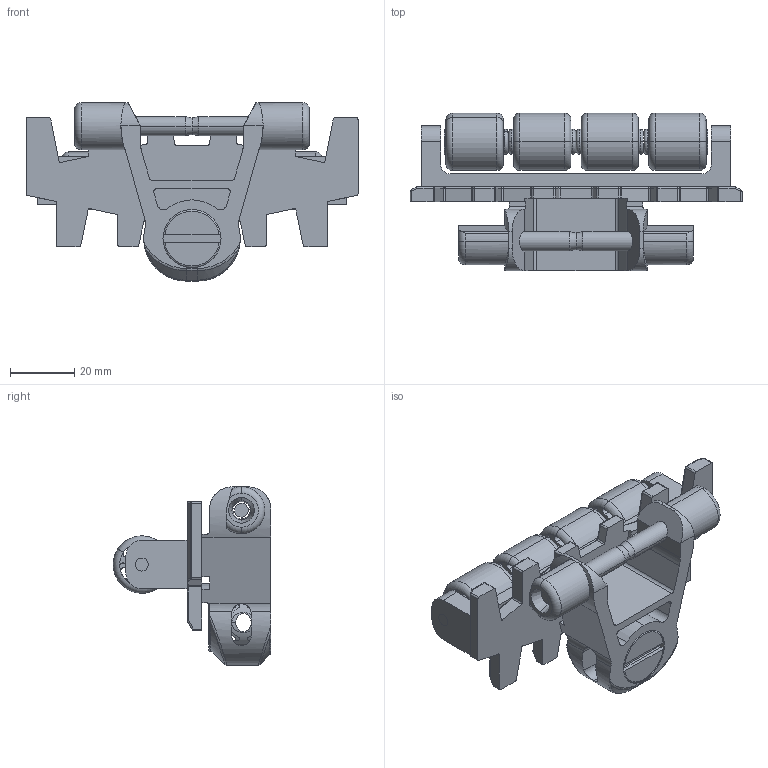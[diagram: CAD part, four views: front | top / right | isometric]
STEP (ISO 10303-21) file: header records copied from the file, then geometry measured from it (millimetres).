
FILE_DESCRIPTION (( 'STEP AP214' ), '1' );
FILE_NAME ('FCRC 5A.step', '2017-04-04T13:29:20', ( '' ), ( '' ), 'SwSTEP 2.0', 'SolidWorks 2015', '' );
FILE_SCHEMA (( 'AUTOMOTIVE_DESIGN' ));
Length unit declared in the file: millimetre
Products named in the file (1): FCRC 5A
Bounding box: 103 x 48.9 x 55.3 mm (x, y, z)
Surface area: 34459.2 mm2 (no closed solid volume)
Topology: 0 solids, 16 shells, 527 faces, 1582 edges, 984 vertices
Faces by surface type: cylinder 282, plane 124, torus 71, sphere 38, cone 8, bspline 4
Entity records: 25119 total; most frequent: CARTESIAN_POINT 4948, DIRECTION 3264, ORIENTED_EDGE 2868, EDGE_CURVE 1558, AXIS2_PLACEMENT_3D 1318, VERTEX_POINT 984, CIRCLE 794, LINE 628
